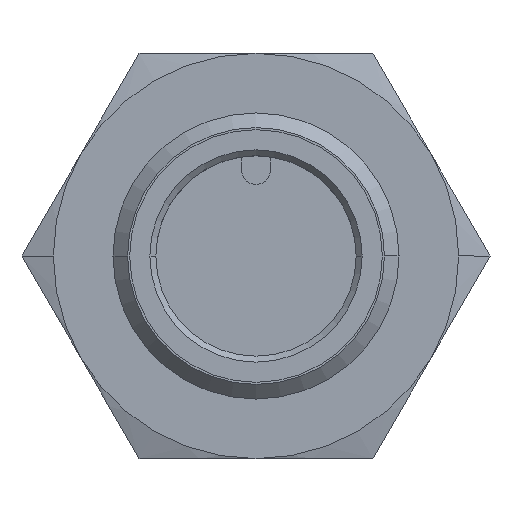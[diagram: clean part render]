
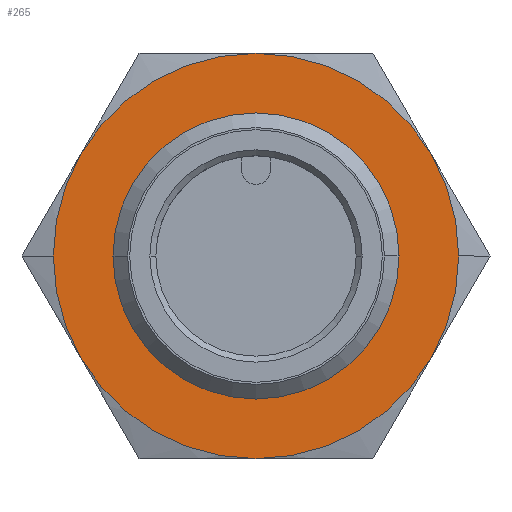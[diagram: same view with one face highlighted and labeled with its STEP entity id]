
A CAD part, left-side view. The second image highlights one B-rep face of the part: STEP entity #265.
In plain terms, the highlighted planar face has unit normal (-1, 0, 0).
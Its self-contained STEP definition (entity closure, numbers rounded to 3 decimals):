
#265 = ADVANCED_FACE( '', ( #495, #496 ), #497, .T. );
#495 = FACE_BOUND( '', #762, .T. );
#496 = FACE_OUTER_BOUND( '', #763, .T. );
#497 = PLANE( '', #764 );
#762 = EDGE_LOOP( '', ( #1517, #1518 ) );
#763 = EDGE_LOOP( '', ( #1519, #1520, #1521, #1522, #1523, #1524, #1525, #1526 ) );
#764 = AXIS2_PLACEMENT_3D( '', #1527, #1528, #1529 );
#1517 = ORIENTED_EDGE( '', *, *, #1981, .T. );
#1518 = ORIENTED_EDGE( '', *, *, #1919, .T. );
#1519 = ORIENTED_EDGE( '', *, *, #1977, .T. );
#1520 = ORIENTED_EDGE( '', *, *, #1930, .T. );
#1521 = ORIENTED_EDGE( '', *, *, #1972, .T. );
#1522 = ORIENTED_EDGE( '', *, *, #1973, .T. );
#1523 = ORIENTED_EDGE( '', *, *, #1932, .T. );
#1524 = ORIENTED_EDGE( '', *, *, #1974, .T. );
#1525 = ORIENTED_EDGE( '', *, *, #1975, .T. );
#1526 = ORIENTED_EDGE( '', *, *, #1976, .T. );
#1527 = CARTESIAN_POINT( '', ( 35., 4.25, 0. ) );
#1528 = DIRECTION( '', ( -1., 0., 0. ) );
#1529 = DIRECTION( '', ( 0., 1., 0. ) );
#1919 = EDGE_CURVE( '', #2292, #2289, #2293, .T. );
#1930 = EDGE_CURVE( '', #2308, #2310, #2312, .T. );
#1932 = EDGE_CURVE( '', #2316, #2313, #2317, .T. );
#1972 = EDGE_CURVE( '', #2310, #2336, #2379, .T. );
#1973 = EDGE_CURVE( '', #2336, #2316, #2380, .T. );
#1974 = EDGE_CURVE( '', #2313, #2367, #2381, .T. );
#1975 = EDGE_CURVE( '', #2367, #2359, #2382, .T. );
#1976 = EDGE_CURVE( '', #2359, #2346, #2383, .T. );
#1977 = EDGE_CURVE( '', #2346, #2308, #2384, .T. );
#1981 = EDGE_CURVE( '', #2289, #2292, #2388, .T. );
#2289 = VERTEX_POINT( '', #3200 );
#2292 = VERTEX_POINT( '', #3204 );
#2293 = CIRCLE( '', #3205, 6. );
#2308 = VERTEX_POINT( '', #3225 );
#2310 = VERTEX_POINT( '', #3228 );
#2312 = CIRCLE( '', #3239, 8.5 );
#2313 = VERTEX_POINT( '', #3240 );
#2316 = VERTEX_POINT( '', #3244 );
#2317 = CIRCLE( '', #3245, 8.5 );
#2336 = VERTEX_POINT( '', #3303 );
#2346 = VERTEX_POINT( '', #3351 );
#2359 = VERTEX_POINT( '', #3428 );
#2367 = VERTEX_POINT( '', #3473 );
#2379 = CIRCLE( '', #3522, 8.5 );
#2380 = CIRCLE( '', #3523, 8.5 );
#2381 = CIRCLE( '', #3524, 8.5 );
#2382 = CIRCLE( '', #3525, 8.5 );
#2383 = CIRCLE( '', #3526, 8.5 );
#2384 = CIRCLE( '', #3527, 8.5 );
#2388 = CIRCLE( '', #3531, 6. );
#3200 = CARTESIAN_POINT( '', ( 35., 6., 0. ) );
#3204 = CARTESIAN_POINT( '', ( 35., -6., 0. ) );
#3205 = AXIS2_PLACEMENT_3D( '', #4102, #4103, #4104 );
#3225 = CARTESIAN_POINT( '', ( 35., 8.5, 0. ) );
#3228 = CARTESIAN_POINT( '', ( 35., 7.361, -4.25 ) );
#3239 = AXIS2_PLACEMENT_3D( '', #4120, #4121, #4122 );
#3240 = CARTESIAN_POINT( '', ( 35., -8.5, 0. ) );
#3244 = CARTESIAN_POINT( '', ( 35., -7.361, -4.25 ) );
#3245 = AXIS2_PLACEMENT_3D( '', #4124, #4125, #4126 );
#3303 = CARTESIAN_POINT( '', ( 35., 0., -8.5 ) );
#3351 = CARTESIAN_POINT( '', ( 35., 7.361, 4.25 ) );
#3428 = CARTESIAN_POINT( '', ( 35., 0., 8.5 ) );
#3473 = CARTESIAN_POINT( '', ( 35., -7.361, 4.25 ) );
#3522 = AXIS2_PLACEMENT_3D( '', #4159, #4160, #4161 );
#3523 = AXIS2_PLACEMENT_3D( '', #4162, #4163, #4164 );
#3524 = AXIS2_PLACEMENT_3D( '', #4165, #4166, #4167 );
#3525 = AXIS2_PLACEMENT_3D( '', #4168, #4169, #4170 );
#3526 = AXIS2_PLACEMENT_3D( '', #4171, #4172, #4173 );
#3527 = AXIS2_PLACEMENT_3D( '', #4174, #4175, #4176 );
#3531 = AXIS2_PLACEMENT_3D( '', #4186, #4187, #4188 );
#4102 = CARTESIAN_POINT( '', ( 35., 0., 0. ) );
#4103 = DIRECTION( '', ( 1., 0., 0. ) );
#4104 = DIRECTION( '', ( 0., 1., 0. ) );
#4120 = CARTESIAN_POINT( '', ( 35., 0., 0. ) );
#4121 = DIRECTION( '', ( -1., 0., 0. ) );
#4122 = DIRECTION( '', ( 0., 1., 0. ) );
#4124 = CARTESIAN_POINT( '', ( 35., 0., 0. ) );
#4125 = DIRECTION( '', ( -1., 0., 0. ) );
#4126 = DIRECTION( '', ( 0., 1., 0. ) );
#4159 = CARTESIAN_POINT( '', ( 35., 0., 0. ) );
#4160 = DIRECTION( '', ( -1., 0., 0. ) );
#4161 = DIRECTION( '', ( 0., 1., 0. ) );
#4162 = CARTESIAN_POINT( '', ( 35., 0., 0. ) );
#4163 = DIRECTION( '', ( -1., 0., 0. ) );
#4164 = DIRECTION( '', ( 0., 1., 0. ) );
#4165 = CARTESIAN_POINT( '', ( 35., 0., 0. ) );
#4166 = DIRECTION( '', ( -1., 0., 0. ) );
#4167 = DIRECTION( '', ( 0., 1., 0. ) );
#4168 = CARTESIAN_POINT( '', ( 35., 0., 0. ) );
#4169 = DIRECTION( '', ( -1., 0., 0. ) );
#4170 = DIRECTION( '', ( 0., 1., 0. ) );
#4171 = CARTESIAN_POINT( '', ( 35., 0., 0. ) );
#4172 = DIRECTION( '', ( -1., 0., 0. ) );
#4173 = DIRECTION( '', ( 0., 1., 0. ) );
#4174 = CARTESIAN_POINT( '', ( 35., 0., 0. ) );
#4175 = DIRECTION( '', ( -1., 0., 0. ) );
#4176 = DIRECTION( '', ( 0., 1., 0. ) );
#4186 = CARTESIAN_POINT( '', ( 35., 0., 0. ) );
#4187 = DIRECTION( '', ( 1., 0., 0. ) );
#4188 = DIRECTION( '', ( 0., 1., 0. ) );
